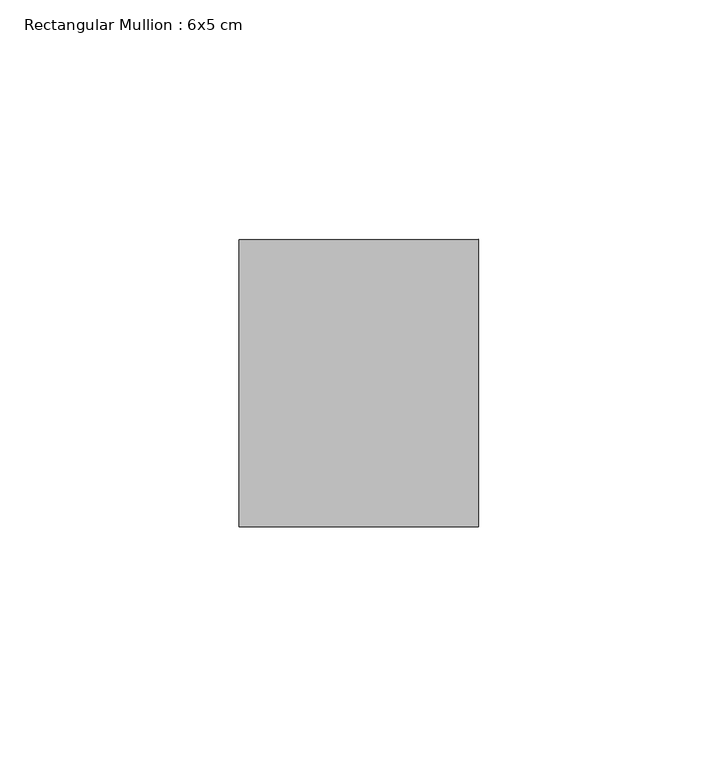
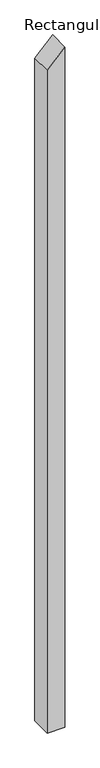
"""IFC4 building model written with IfcOpenShell, lengths in millimetres: member geometry, Rectangular Mullion : 6x5 cm."""

from ifc_helpers import new_model, si_unit, frame, origin, place, context, project, spatial, polyline, outline, extrude, source, transform, mapped, element, save


def rectangular_mullion_6x5_cm_523ccd75(model_context):
    return source(origin(), model_context, "Body", "SweptSolid", [
        extrude(outline(polyline([(-46.1833952, 25.0), (-98.3849277, -25.0), (-2088.0613018, -25.0), (-2088.0613018, 25.0), (-46.1833952, 25.0)])), frame((0.0, 20.0, 0.0), z_axis=(0.0, 1.0, 0.0), x_axis=(0.0, 0.0, 1.0)), (0.0, 0.0, 1.0), 60.0),
    ])


if __name__ == "__main__":
    model = new_model("IFC4")
    model_context = context("Model", 3, world=origin())
    ifc_project = project(units=[si_unit("LENGTHUNIT", "METRE", prefix="MILLI")], contexts=[model_context])
    site = spatial("IfcSite", under=ifc_project)
    building = spatial("IfcBuilding", under=site)
    placement = place(None, origin())
    rectangular_mullion_6x5_cm_shape = rectangular_mullion_6x5_cm_523ccd75(model_context)
    element("IfcMember", 1, ObjectType="Rectangular Mullion : 6x5 cm", at=placement, inside=building, context=model_context, shape_type="MappedRepresentation", body=[
        mapped(rectangular_mullion_6x5_cm_shape, transform((0.0, 0.0, 0.0), x_axis=(1.0, 0.0, 0.0), y_axis=(0.0, 1.0, 0.0), z_axis=(0.0, 0.0, 1.0))),
    ])
    save(model, "model.ifc")
